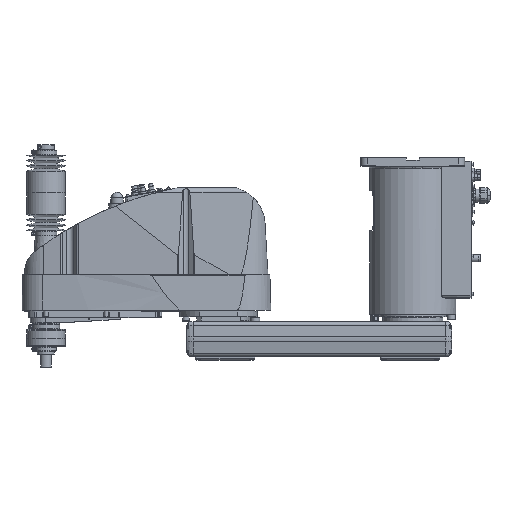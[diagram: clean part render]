
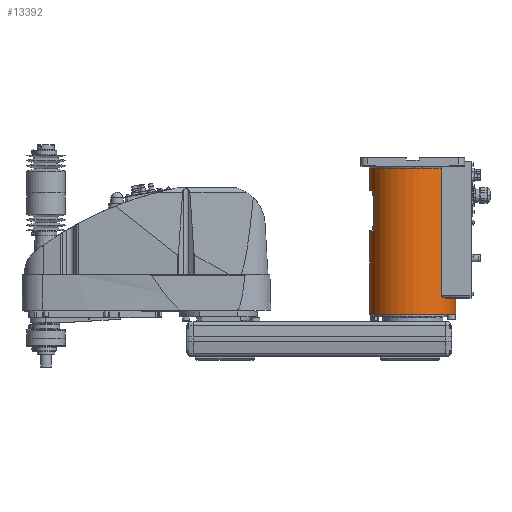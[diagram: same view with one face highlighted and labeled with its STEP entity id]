
A CAD part, top view. The second image highlights one B-rep face of the part: STEP entity #13392.
In plain terms, the highlighted cylindrical face has radius 100 mm (diameter 200 mm), a partial arc.
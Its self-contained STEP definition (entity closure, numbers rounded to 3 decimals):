
#10218 = EDGE_CURVE( '', #18582, #22964, #30416, .T. );
#11960 = EDGE_CURVE( '', #21836, #21398, #32379, .T. );
#12040 = EDGE_CURVE( '', #19308, #18582, #32468, .T. );
#12966 = EDGE_CURVE( '', #16028, #27080, #33522, .T. );
#13392 = ADVANCED_FACE( '', ( #33989 ), #33990, .T. );
#13424 = VERTEX_POINT( '', #34023 );
#15214 = VERTEX_POINT( '', #36051 );
#16028 = VERTEX_POINT( '', #36959 );
#16198 = EDGE_CURVE( '', #26506, #17702, #37150, .T. );
#17434 = VERTEX_POINT( '', #38517 );
#17610 = VERTEX_POINT( '', #38711 );
#17702 = VERTEX_POINT( '', #38812 );
#18582 = VERTEX_POINT( '', #39797 );
#19224 = EDGE_CURVE( '', #21398, #17434, #40518, .T. );
#19308 = VERTEX_POINT( '', #40615 );
#20036 = VERTEX_POINT( '', #41426 );
#21398 = VERTEX_POINT( '', #42944 );
#21836 = VERTEX_POINT( '', #43437 );
#22964 = VERTEX_POINT( '', #44670 );
#23456 = VERTEX_POINT( '', #45207 );
#24100 = EDGE_CURVE( '', #28312, #21836, #45957, .T. );
#24870 = EDGE_CURVE( '', #22964, #13424, #46795, .T. );
#24892 = EDGE_CURVE( '', #27080, #23456, #46818, .T. );
#25990 = EDGE_CURVE( '', #17610, #15214, #48033, .T. );
#26506 = VERTEX_POINT( '', #48617 );
#27080 = VERTEX_POINT( '', #49256 );
#27770 = EDGE_CURVE( '', #23456, #17702, #50023, .T. );
#27782 = EDGE_CURVE( '', #17434, #19308, #50036, .T. );
#28216 = EDGE_CURVE( '', #13424, #20036, #50519, .T. );
#28312 = VERTEX_POINT( '', #50621 );
#28510 = EDGE_CURVE( '', #17610, #20036, #50845, .T. );
#28800 = EDGE_CURVE( '', #15214, #26506, #51170, .T. );
#29712 = EDGE_CURVE( '', #16028, #28312, #52174, .T. );
#30416 = LINE( '', #52971, #52972 );
#32379 = CIRCLE( '', #55766, 100. );
#32468 = B_SPLINE_CURVE_WITH_KNOTS( '', 3, ( #55903, #55904, #55905, #55906, #55907, #55908, #55909, #55910, #55911, #55912, #55913, #55914, #55915, #55916, #55917, #55918, #55919, #55920 ), .UNSPECIFIED., .F., .F., ( 4, 2, 2, 2, 2, 2, 2, 2, 4 ), ( -7.48, -6.36, -5.24, -4.12, -3., -2.25, -1.5, -0.75, 0. ), .UNSPECIFIED. );
#33522 = LINE( '', #57373, #57374 );
#33989 = FACE_OUTER_BOUND( '', #58022, .T. );
#33990 = CYLINDRICAL_SURFACE( '', #58023, 100. );
#34023 = CARTESIAN_POINT( '', ( 0., 363., 100. ) );
#36051 = CARTESIAN_POINT( '', ( -88., 311.3, 47.497 ) );
#36959 = CARTESIAN_POINT( '', ( 100., 64., 0. ) );
#37150 = CIRCLE( '', #62741, 100. );
#38517 = CARTESIAN_POINT( '', ( 75.993, 64., 65. ) );
#38711 = CARTESIAN_POINT( '', ( -100., 311.3, 0. ) );
#38812 = CARTESIAN_POINT( '', ( -100., 218.3, 0. ) );
#39797 = CARTESIAN_POINT( '', ( 66.144, 68., 75. ) );
#40518 = LINE( '', #67863, #67864 );
#40615 = CARTESIAN_POINT( '', ( 70.42, 64., 71. ) );
#41426 = CARTESIAN_POINT( '', ( -100., 363., 0. ) );
#42944 = CARTESIAN_POINT( '', ( 75.993, 62., 65. ) );
#43437 = CARTESIAN_POINT( '', ( 89.303, 62., 45. ) );
#44670 = CARTESIAN_POINT( '', ( 66.144, 363., 75. ) );
#45207 = CARTESIAN_POINT( '', ( -100., 25., 0. ) );
#45957 = LINE( '', #75813, #75814 );
#46795 = CIRCLE( '', #76967, 100. );
#46818 = CIRCLE( '', #77012, 100. );
#48033 = CIRCLE( '', #78782, 100. );
#48617 = CARTESIAN_POINT( '', ( -88., 218.3, 47.497 ) );
#49256 = CARTESIAN_POINT( '', ( 100., 25., 0. ) );
#50023 = LINE( '', #81842, #81843 );
#50036 = CIRCLE( '', #81860, 100. );
#50519 = CIRCLE( '', #82523, 100. );
#50621 = CARTESIAN_POINT( '', ( 89.303, 64., 45. ) );
#50845 = LINE( '', #83002, #83003 );
#51170 = LINE( '', #83461, #83462 );
#52174 = CIRCLE( '', #84879, 100. );
#52971 = CARTESIAN_POINT( '', ( 66.144, 215.5, 75. ) );
#52972 = VECTOR( '', #85880, 1. );
#55766 = AXIS2_PLACEMENT_3D( '', #88314, #88315, #88316 );
#55903 = CARTESIAN_POINT( '', ( 70.42, 64., 71. ) );
#55904 = CARTESIAN_POINT( '', ( 70.155, 64., 71.263 ) );
#55905 = CARTESIAN_POINT( '', ( 69.877, 64.026, 71.535 ) );
#55906 = CARTESIAN_POINT( '', ( 69.316, 64.139, 72.08 ) );
#55907 = CARTESIAN_POINT( '', ( 69.031, 64.224, 72.352 ) );
#55908 = CARTESIAN_POINT( '', ( 68.475, 64.457, 72.879 ) );
#55909 = CARTESIAN_POINT( '', ( 68.203, 64.604, 73.134 ) );
#55910 = CARTESIAN_POINT( '', ( 67.688, 64.954, 73.61 ) );
#55911 = CARTESIAN_POINT( '', ( 67.446, 65.158, 73.831 ) );
#55912 = CARTESIAN_POINT( '', ( 67.082, 65.542, 74.162 ) );
#55913 = CARTESIAN_POINT( '', ( 66.938, 65.716, 74.292 ) );
#55914 = CARTESIAN_POINT( '', ( 66.674, 66.103, 74.529 ) );
#55915 = CARTESIAN_POINT( '', ( 66.555, 66.315, 74.636 ) );
#55916 = CARTESIAN_POINT( '', ( 66.356, 66.766, 74.812 ) );
#55917 = CARTESIAN_POINT( '', ( 66.277, 67.005, 74.882 ) );
#55918 = CARTESIAN_POINT( '', ( 66.171, 67.497, 74.976 ) );
#55919 = CARTESIAN_POINT( '', ( 66.144, 67.75, 75. ) );
#55920 = CARTESIAN_POINT( '', ( 66.144, 68., 75. ) );
#57373 = CARTESIAN_POINT( '', ( 100., 194., 0. ) );
#57374 = VECTOR( '', #89713, 1. );
#58022 = EDGE_LOOP( '', ( #90234, #90235, #90236, #90237, #90238, #90239, #90240, #90241, #90242, #90243, #90244, #90245, #90246, #90247, #90248, #90249 ) );
#58023 = AXIS2_PLACEMENT_3D( '', #90250, #90251, #90252 );
#62741 = AXIS2_PLACEMENT_3D( '', #93999, #94000, #94001 );
#67863 = CARTESIAN_POINT( '', ( 75.993, 63., 65. ) );
#67864 = VECTOR( '', #97841, 1. );
#75813 = CARTESIAN_POINT( '', ( 89.303, 63., 45. ) );
#75814 = VECTOR( '', #104124, 1. );
#76967 = AXIS2_PLACEMENT_3D( '', #104977, #104978, #104979 );
#77012 = AXIS2_PLACEMENT_3D( '', #105002, #105003, #105004 );
#78782 = AXIS2_PLACEMENT_3D( '', #106279, #106280, #106281 );
#81842 = CARTESIAN_POINT( '', ( -100., 194., 0. ) );
#81843 = VECTOR( '', #108534, 1. );
#81860 = AXIS2_PLACEMENT_3D( '', #108549, #108550, #108551 );
#82523 = AXIS2_PLACEMENT_3D( '', #109127, #109128, #109129 );
#83002 = CARTESIAN_POINT( '', ( -100., 194., 0. ) );
#83003 = VECTOR( '', #109513, 1. );
#83461 = CARTESIAN_POINT( '', ( -88., 264.8, 47.497 ) );
#83462 = VECTOR( '', #109892, 1. );
#84879 = AXIS2_PLACEMENT_3D( '', #110984, #110985, #110986 );
#85880 = DIRECTION( '', ( 0., 1., 0. ) );
#88314 = CARTESIAN_POINT( '', ( 0., 62., 0. ) );
#88315 = DIRECTION( '', ( 0., -1., 0. ) );
#88316 = DIRECTION( '', ( 1., 0., 0. ) );
#89713 = DIRECTION( '', ( 0., -1., 0. ) );
#90234 = ORIENTED_EDGE( '', *, *, #12966, .F. );
#90235 = ORIENTED_EDGE( '', *, *, #29712, .T. );
#90236 = ORIENTED_EDGE( '', *, *, #24100, .T. );
#90237 = ORIENTED_EDGE( '', *, *, #11960, .T. );
#90238 = ORIENTED_EDGE( '', *, *, #19224, .T. );
#90239 = ORIENTED_EDGE( '', *, *, #27782, .T. );
#90240 = ORIENTED_EDGE( '', *, *, #12040, .T. );
#90241 = ORIENTED_EDGE( '', *, *, #10218, .T. );
#90242 = ORIENTED_EDGE( '', *, *, #24870, .T. );
#90243 = ORIENTED_EDGE( '', *, *, #28216, .T. );
#90244 = ORIENTED_EDGE( '', *, *, #28510, .F. );
#90245 = ORIENTED_EDGE( '', *, *, #25990, .T. );
#90246 = ORIENTED_EDGE( '', *, *, #28800, .T. );
#90247 = ORIENTED_EDGE( '', *, *, #16198, .T. );
#90248 = ORIENTED_EDGE( '', *, *, #27770, .F. );
#90249 = ORIENTED_EDGE( '', *, *, #24892, .F. );
#90250 = CARTESIAN_POINT( '', ( 0., 194., 0. ) );
#90251 = DIRECTION( '', ( 0., 1., 0. ) );
#90252 = DIRECTION( '', ( 1., 0., 0. ) );
#93999 = CARTESIAN_POINT( '', ( 0., 218.3, 0. ) );
#94000 = DIRECTION( '', ( 0., -1., 0. ) );
#94001 = DIRECTION( '', ( 1., 0., 0. ) );
#97841 = DIRECTION( '', ( 0., 1., 0. ) );
#104124 = DIRECTION( '', ( 0., -1., 0. ) );
#104977 = CARTESIAN_POINT( '', ( 0., 363., 0. ) );
#104978 = DIRECTION( '', ( 0., -1., 0. ) );
#104979 = DIRECTION( '', ( 1., 0., 0. ) );
#105002 = CARTESIAN_POINT( '', ( 0., 25., 0. ) );
#105003 = DIRECTION( '', ( 0., -1., 0. ) );
#105004 = DIRECTION( '', ( 1., 0., 0. ) );
#106279 = CARTESIAN_POINT( '', ( 0., 311.3, 0. ) );
#106280 = DIRECTION( '', ( 0., 1., 0. ) );
#106281 = DIRECTION( '', ( 1., 0., 0. ) );
#108534 = DIRECTION( '', ( 0., 1., 0. ) );
#108549 = CARTESIAN_POINT( '', ( 0., 64., 0. ) );
#108550 = DIRECTION( '', ( 0., -1., 0. ) );
#108551 = DIRECTION( '', ( 1., 0., 0. ) );
#109127 = CARTESIAN_POINT( '', ( 0., 363., 0. ) );
#109128 = DIRECTION( '', ( 0., -1., 0. ) );
#109129 = DIRECTION( '', ( 1., 0., 0. ) );
#109513 = DIRECTION( '', ( 0., 1., 0. ) );
#109892 = DIRECTION( '', ( 0., -1., 0. ) );
#110984 = CARTESIAN_POINT( '', ( 0., 64., 0. ) );
#110985 = DIRECTION( '', ( 0., -1., 0. ) );
#110986 = DIRECTION( '', ( 1., 0., 0. ) );
